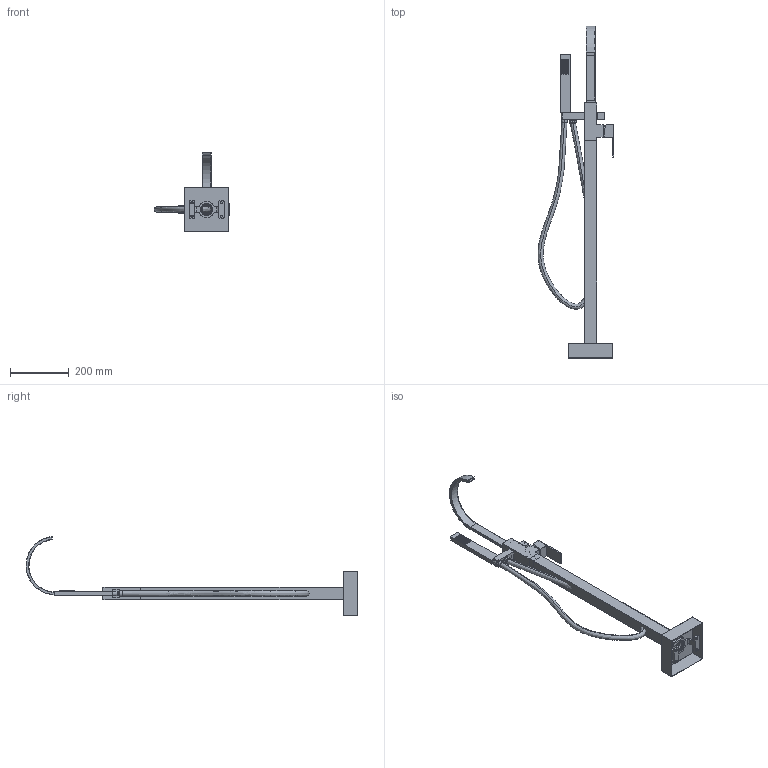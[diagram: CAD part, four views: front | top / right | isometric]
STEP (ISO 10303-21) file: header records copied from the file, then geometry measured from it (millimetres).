
FILE_DESCRIPTION (( 'STEP AP214' ), '1' );
FILE_NAME ('9111.STEP', '2020-02-06T06:15:49', ( '微软用户' ), ( '微软中国' ), 'SwSTEP 2.0', 'SolidWorks 2014', '' );
FILE_SCHEMA (( 'AUTOMOTIVE_DESIGN' ));
Length unit declared in the file: millimetre
Products named in the file (21): 9111揤裔14; 煦阨棟郋21; 9111忒謫(蜊)14; 9111侐源菁髓; 9111嘐隅杶; 9111菁諉挴; 9111諉杶; 9111眻奪; 9111奪諉挴; 9118花洒管; 9111奪; 9111; 9111奪蚾庉戚; 9111縐蛈; 9111翋极(翉婖); 8702花洒; 色钮(全白); 706忒梟(110); M32X1.25装饰杯（塑料）; M37X1.25两级压盖（新）; D35P
Assembly tree (20 placements, depth 2):
  9111
    9111奪諉挴
    9111眻奪
    9111諉杶
    9111菁諉挴
    9111嘐隅杶
    9111侐源菁髓
    9111忒謫(蜊)14
    煦阨棟郋21
    9111揤裔14
    D35P
    M37X1.25两级压盖（新）
    M32X1.25装饰杯（塑料）
    706忒梟(110)
    色钮(全白)
    8702花洒
    9111翋极(翉婖)
    9111縐蛈
    9111奪蚾庉戚
    9111奪
    9118花洒管
Bounding box: 258.3 x 1129.87 x 268.97 mm (x, y, z)
Volume: 988814.2 mm3; surface area: 654635.9 mm2
Topology: 20 solids, 20 shells, 1248 faces, 2946 edges, 1849 vertices
Faces by surface type: plane 486, cylinder 476, cone 158, torus 101, bspline 25, sphere 2
Entity records: 42389 total; most frequent: CARTESIAN_POINT 12064, DIRECTION 6379, ORIENTED_EDGE 5872, EDGE_CURVE 2936, AXIS2_PLACEMENT_3D 2482, VERTEX_POINT 1849, EDGE_LOOP 1437, LINE 1415
